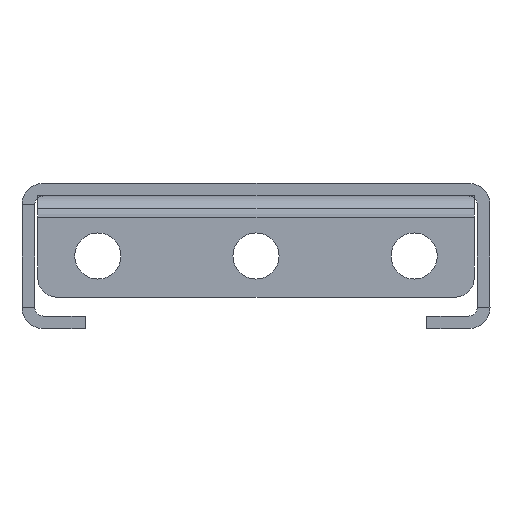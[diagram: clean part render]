
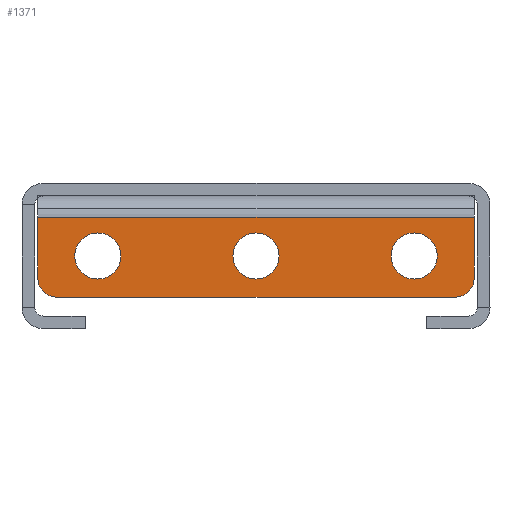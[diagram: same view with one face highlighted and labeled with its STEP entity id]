
A CAD part, left-side view. The second image highlights one B-rep face of the part: STEP entity #1371.
In plain terms, the highlighted planar face has unit normal (-1, 0, 0).
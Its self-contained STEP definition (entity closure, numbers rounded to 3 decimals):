
#1371=ADVANCED_FACE('NONE',(#12814,#12816,#12818,#12820),#12822,.T.);
#12814=FACE_BOUND('',#12815,.T.);
#12815=EDGE_LOOP('',(#19799,#19800,#19801,#19802,#19803,#19804));
#12816=FACE_BOUND('',#12817,.T.);
#12817=EDGE_LOOP('',(#19805));
#12818=FACE_BOUND('',#12819,.T.);
#12819=EDGE_LOOP('',(#19806));
#12820=FACE_BOUND('',#12821,.T.);
#12821=EDGE_LOOP('',(#19807));
#12822=PLANE('',#12823);
#12823=AXIS2_PLACEMENT_3D('',#12824,#12825,#12826);
#12824=CARTESIAN_POINT('',(-568.5,0.,-2.));
#12825=DIRECTION('',(-1.,0.,0.));
#12826=DIRECTION('',(0.,0.,-1.));
#19799=ORIENTED_EDGE('',*,*,#23308,.F.);
#19800=ORIENTED_EDGE('',*,*,#23312,.T.);
#19801=ORIENTED_EDGE('',*,*,#23313,.F.);
#19802=ORIENTED_EDGE('',*,*,#23314,.T.);
#19803=ORIENTED_EDGE('',*,*,#23309,.F.);
#19804=ORIENTED_EDGE('',*,*,#23304,.T.);
#19805=ORIENTED_EDGE('',*,*,#23269,.F.);
#19806=ORIENTED_EDGE('',*,*,#23271,.F.);
#19807=ORIENTED_EDGE('',*,*,#23273,.F.);
#23269=EDGE_CURVE('NONE',#29121,#29121,#29122,.T.);
#23271=EDGE_CURVE('NONE',#29125,#29125,#29126,.T.);
#23273=EDGE_CURVE('NONE',#29129,#29129,#29130,.T.);
#23304=EDGE_CURVE('NONE',#29174,#29180,#29183,.T.);
#23308=EDGE_CURVE('NONE',#29187,#29180,#29189,.T.);
#23309=EDGE_CURVE('NONE',#29174,#29190,#29191,.T.);
#23312=EDGE_CURVE('NONE',#29187,#29195,#29196,.T.);
#23313=EDGE_CURVE('NONE',#29197,#29195,#29198,.T.);
#23314=EDGE_CURVE('NONE',#29197,#29190,#29199,.T.);
#29121=VERTEX_POINT('NONE',#42337);
#29122=CIRCLE('',#42338,3.65);
#29125=VERTEX_POINT('NONE',#42347);
#29126=CIRCLE('',#42348,3.65);
#29129=VERTEX_POINT('NONE',#42357);
#29130=CIRCLE('',#42358,3.65);
#29174=VERTEX_POINT('NONE',#42463);
#29180=VERTEX_POINT('NONE',#42480);
#29183=LINE('',#42488,#42489);
#29187=VERTEX_POINT('NONE',#42498);
#29189=LINE('',#42502,#42503);
#29190=VERTEX_POINT('NONE',#42505);
#29191=LINE('',#42506,#42507);
#29195=VERTEX_POINT('NONE',#42516);
#29196=CIRCLE('',#42517,3.);
#29197=VERTEX_POINT('NONE',#42521);
#29198=LINE('',#42522,#42523);
#29199=CIRCLE('',#42525,3.);
#42337=CARTESIAN_POINT('',(-568.5,25.,-13.15));
#42338=AXIS2_PLACEMENT_3D('',#42339,#42340,#42341);
#42339=CARTESIAN_POINT('',(-568.5,25.,-9.5));
#42340=DIRECTION('',(-1.,0.,0.));
#42341=DIRECTION('',(0.,0.,1.));
#42347=CARTESIAN_POINT('',(-568.5,0.,-13.15));
#42348=AXIS2_PLACEMENT_3D('',#42349,#42350,#42351);
#42349=CARTESIAN_POINT('',(-568.5,0.,-9.5));
#42350=DIRECTION('',(-1.,0.,0.));
#42351=DIRECTION('',(0.,0.,1.));
#42357=CARTESIAN_POINT('',(-568.5,-25.,-13.15));
#42358=AXIS2_PLACEMENT_3D('',#42359,#42360,#42361);
#42359=CARTESIAN_POINT('',(-568.5,-25.,-9.5));
#42360=DIRECTION('',(-1.,0.,0.));
#42361=DIRECTION('',(0.,0.,1.));
#42463=CARTESIAN_POINT('',(-568.5,-34.5,-3.4));
#42480=CARTESIAN_POINT('',(-568.5,34.5,-3.4));
#42488=CARTESIAN_POINT('',(-568.5,-34.5,-3.4));
#42489=VECTOR('',#42490,1.);
#42490=DIRECTION('',(0.,1.,0.));
#42498=CARTESIAN_POINT('',(-568.5,34.5,-13.));
#42502=CARTESIAN_POINT('',(-568.5,34.5,-13.));
#42503=VECTOR('',#42504,1.);
#42504=DIRECTION('',(0.,0.,1.));
#42505=CARTESIAN_POINT('',(-568.5,-34.5,-13.));
#42506=CARTESIAN_POINT('',(-568.5,-34.5,-3.4));
#42507=VECTOR('',#42508,1.);
#42508=DIRECTION('',(0.,0.,-1.));
#42516=CARTESIAN_POINT('',(-568.5,31.5,-16.));
#42517=AXIS2_PLACEMENT_3D('',#42518,#42519,#42520);
#42518=CARTESIAN_POINT('',(-568.5,31.5,-13.));
#42519=DIRECTION('',(-1.,0.,0.));
#42520=DIRECTION('',(0.,1.,0.));
#42521=CARTESIAN_POINT('',(-568.5,-31.5,-16.));
#42522=CARTESIAN_POINT('',(-568.5,-31.5,-16.));
#42523=VECTOR('',#42524,1.);
#42524=DIRECTION('',(0.,1.,0.));
#42525=AXIS2_PLACEMENT_3D('',#42526,#42527,#42528);
#42526=CARTESIAN_POINT('',(-568.5,-31.5,-13.));
#42527=DIRECTION('',(-1.,0.,0.));
#42528=DIRECTION('',(0.,0.,-1.));
